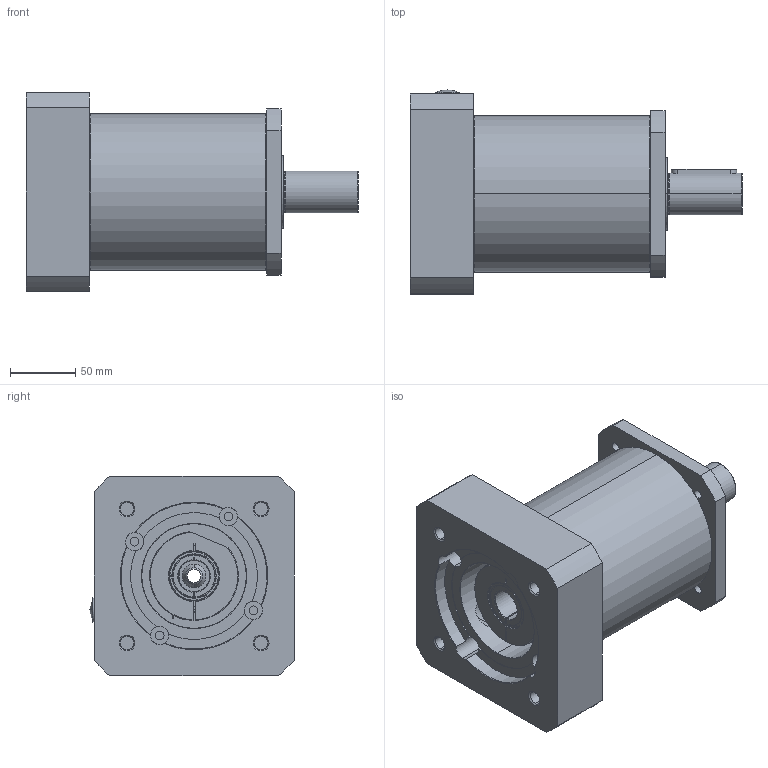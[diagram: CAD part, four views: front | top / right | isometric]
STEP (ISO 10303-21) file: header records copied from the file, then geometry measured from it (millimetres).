
FILE_DESCRIPTION (( 'STEP AP214' ), '1' );
FILE_NAME ('AL-042-RRR-FFF-MMM-S-LL-XXX-CXX-0000.STEP', '2019-10-23T15:40:18', ( '' ), ( '' ), 'SwSTEP 2.0', 'SolidWorks 2019', '' );
FILE_SCHEMA (( 'AUTOMOTIVE_DESIGN' ));
Length unit declared in the file: millimetre
Products named in the file (1): AL-042-RRR-FFF-MMM-S-LL-XXX-CXX-0000
Bounding box: 254 x 156.1 x 153 mm (x, y, z)
Surface area: 192886.8 mm2 (no closed solid volume)
Topology: 0 solids, 63 shells, 289 faces, 1814 edges, 1570 vertices
Faces by surface type: plane 124, cylinder 84, cone 46, torus 31, sphere 2, bspline 2
Entity records: 26403 total; most frequent: CARTESIAN_POINT 10528, ORIENTED_EDGE 2310, DIRECTION 2169, EDGE_CURVE 1806, VERTEX_POINT 1570, LINE 891, VECTOR 891, AXIS2_PLACEMENT_3D 639
